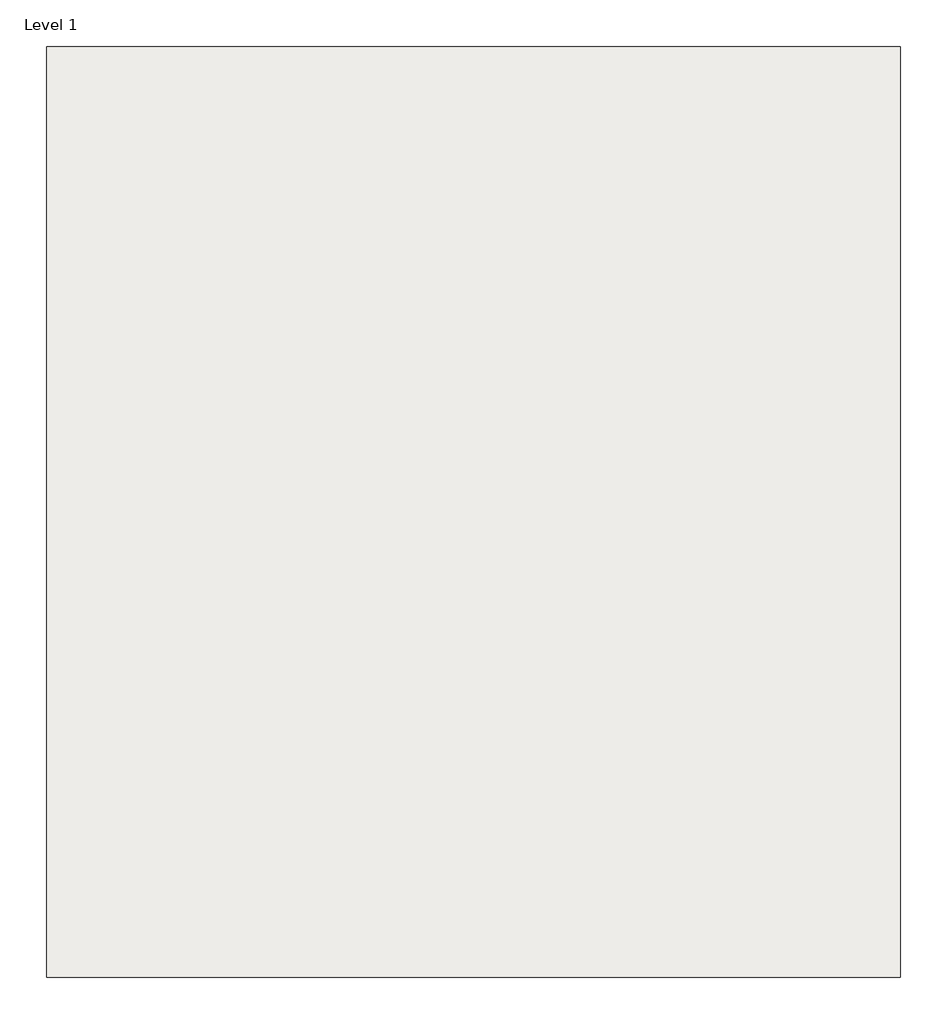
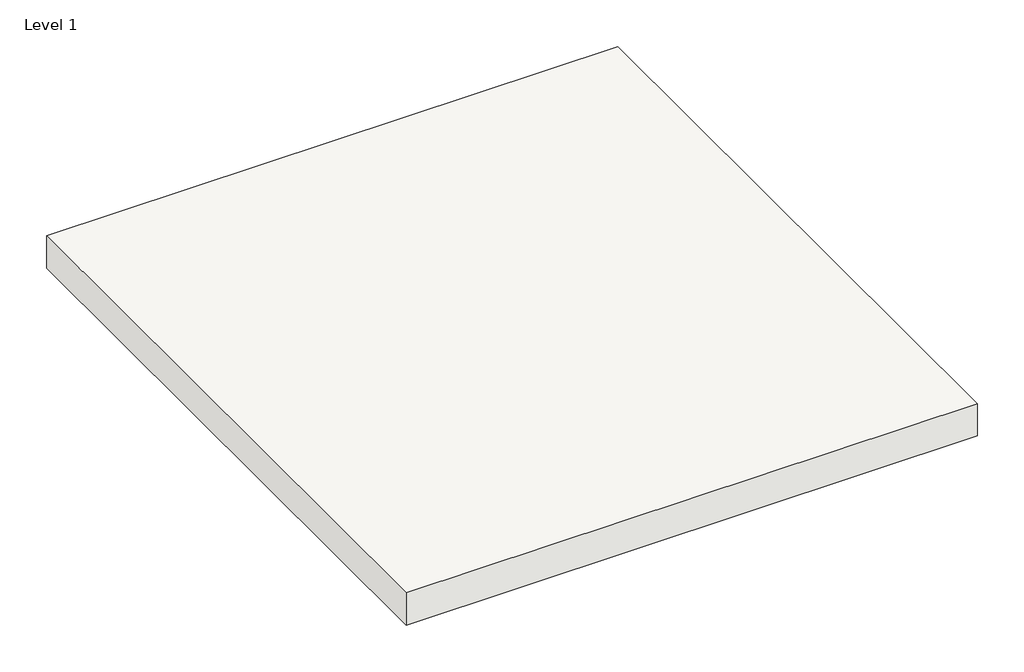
# One storey: 1 slab.
"""IFC4 building model written with IfcOpenShell, lengths in millimetres."""

from ifc_helpers import new_model, si_unit, frame, origin, place, context, project, spatial, polyline, outline, extrude, element, save

model = new_model("IFC4")

# Units and contexts
model_context = context("Model", 3, world=origin())
ifc_project = project(units=[si_unit("LENGTHUNIT", "METRE", prefix="MILLI")], contexts=[model_context])

# Site, building, storey
site = spatial("IfcSite", under=ifc_project)
building = spatial("IfcBuilding", under=site)
storey = spatial("IfcBuildingStorey", under=building, Name="Level 1", Elevation=0.0)

# Slab
placement = place(None, origin())
element("IfcSlab", 1, ObjectType="Generic Floor - 400mm", at=placement, inside=storey, context=model_context, shape_type="SweptSolid", body=[
    extrude(outline(polyline([(3504.5792541, 3717.7584565), (3504.5792541, -3582.2415435), (-3195.4207459, -3582.2415435), (-3195.4207459, 3717.7584565), (3504.5792541, 3717.7584565)])), frame((0.0, 0.0, -400.0), z_axis=(0.0, 0.0, 1.0), x_axis=(1.0, 0.0, 0.0)), (0.0, 0.0, 1.0), 400.0),
])

save(model, "model.ifc")
